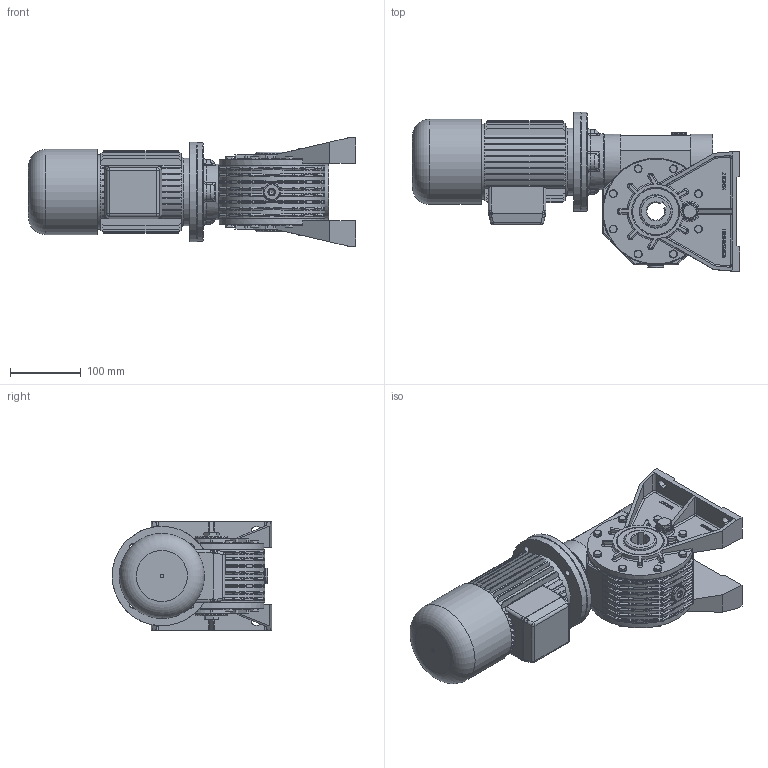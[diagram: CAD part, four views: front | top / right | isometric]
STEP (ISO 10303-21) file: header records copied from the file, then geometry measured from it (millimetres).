
FILE_DESCRIPTION((''),'2;1');
FILE_NAME('Y:\Archivi Inventor\Prog_01\GRAND_30\Figurini\MRV30 sito\63 Autofrenante\MRV30_P3_63_B5.stp','2013-02-06T09:00:24',('tech3'),(''),'Autodesk Inventor 2013','Autodesk Inventor 2013','');
FILE_SCHEMA(('AUTOMOTIVE_DESIGN { 1 0 10303 214 1 1 1 1 }'));
Length unit declared in the file: millimetre
Products named in the file (16): MRV30_63_B5; MRV30; 0103001-A2 fig; 0103008.A1 fig F=25; PARAOLIO 45x65x10; RCA_52x7; Guarnizione 3_8 GAS; Tappo 3_8 GAS_esagn_incsst; 0103010-A0 fig; 0103029; DIN EN 24017 M6 x 20; Tappo3_8 GAS; 0103028; UNI 5931 M 8 x  25; 0103006; motori B5 brake 63
Assembly tree (41 placements, depth 3):
  MRV30_63_B5
    MRV30
      0103001-A2 fig
      0103008.A1 fig F=25
      PARAOLIO 45x65x10  x2
      RCA_52x7
      Guarnizione 3_8 GAS  x4
      Tappo 3_8 GAS_esagn_incsst  x2
      0103010-A0 fig  x2
      0103029  x2
      DIN EN 24017 M6 x 20  x16
      Tappo3_8 GAS  x2
      0103028
      UNI 5931 M 8 x  25  x4
    0103006
    motori B5 brake 63
Bounding box: 460.9 x 225 x 152.7 mm (x, y, z)
Volume: 4035484.2 mm3; surface area: 696245.1 mm2
Topology: 41 solids, 44 shells, 2575 faces, 6300 edges, 3874 vertices
Faces by surface type: plane 1323, cylinder 608, bspline 292, torus 161, cone 159, sphere 32
Full cylindrical faces by diameter (mm): 2 x2, 4.917 x16, 5 x1, 6 x16, 6.5 x32, 6.647 x4, 8 x6, 8.5 x8, 8.88 x16, 9 x4, 9.5 x4, 11 x17, 13 x4, 13.046 x2, 14.95 x4, 16.3 x4, 16.5 x2, 22 x8, 25 x3, 43 x1, 45 x4, 45.76 x1, 50.881 x2, 52 x6, 55 x1, 60.5 x2, 65 x4, 75 x2, 77 x1, 78 x1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
Entity records: 57603 total; most frequent: CARTESIAN_POINT 17579, ORIENTED_EDGE 7944, DIRECTION 7942, EDGE_CURVE 3972, AXIS2_PLACEMENT_3D 2908, VERTEX_POINT 2539, VECTOR 2126, LINE 2126
